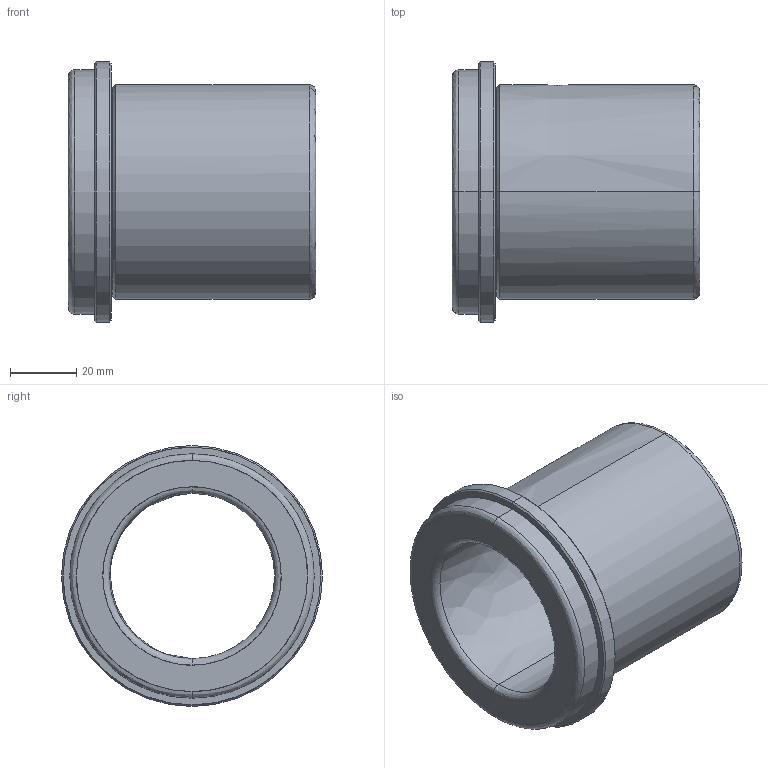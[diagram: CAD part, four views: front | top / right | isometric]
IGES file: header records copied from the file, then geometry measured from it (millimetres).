
Start section: START RECORD GO HERE.
Global section: file name: CF 632 50 x 75.igs; native system: DASSAULT SYSTEMES CATIA V5 R20 - www.3ds.com; preprocessor: CATIA Version 5 Release 20 ; author: Utente; organization: NB04-ASUS; date: 20201226.203303; units: millimetre
Bounding box: 75 x 79 x 79 mm (x, y, z)
Surface area: 33280.3 mm2 (no closed solid volume)
Topology: 0 solids, 0 shells, 33 faces, 228 edges, 228 vertices
Faces by surface type: revolution 28, plane 5
